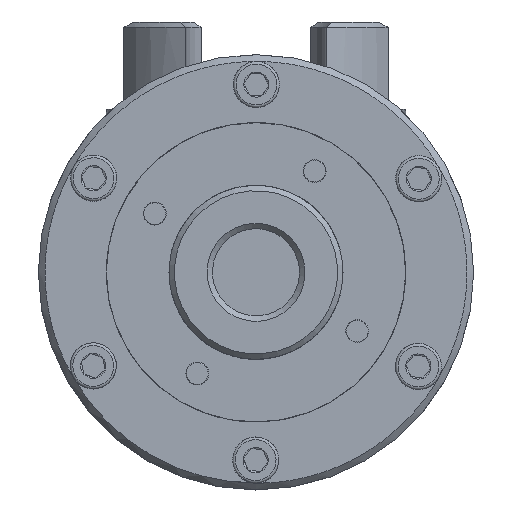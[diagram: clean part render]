
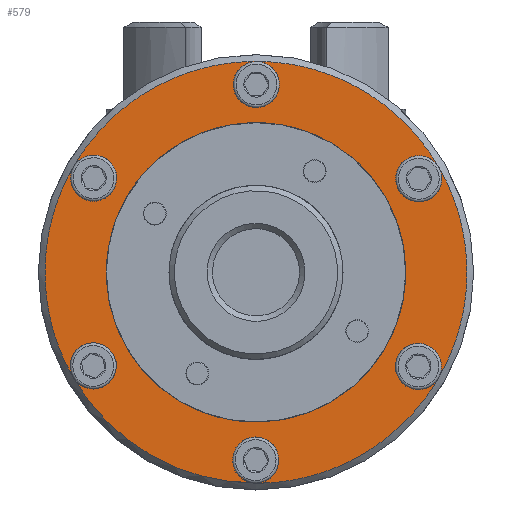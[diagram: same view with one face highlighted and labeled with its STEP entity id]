
A CAD part, left-side view. The second image highlights one B-rep face of the part: STEP entity #579.
In plain terms, the highlighted planar face has unit normal (-1, 0, 0).
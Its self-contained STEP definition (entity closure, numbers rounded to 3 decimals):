
#579 = ADVANCED_FACE( '', ( #1197, #1198 ), #1199, .F. );
#1197 = FACE_OUTER_BOUND( '', #2186, .T. );
#1198 = FACE_BOUND( '', #2187, .T. );
#1199 = PLANE( '', #2188 );
#2186 = EDGE_LOOP( '', ( #3488, #3489, #3490, #3491, #3492, #3493, #3494, #3495, #3496, #3497, #3498, #3499 ) );
#2187 = EDGE_LOOP( '', ( #3500 ) );
#2188 = AXIS2_PLACEMENT_3D( '', #3501, #3502, #3503 );
#3488 = ORIENTED_EDGE( '', *, *, #5673, .T. );
#3489 = ORIENTED_EDGE( '', *, *, #5666, .T. );
#3490 = ORIENTED_EDGE( '', *, *, #5674, .T. );
#3491 = ORIENTED_EDGE( '', *, *, #5665, .T. );
#3492 = ORIENTED_EDGE( '', *, *, #5671, .T. );
#3493 = ORIENTED_EDGE( '', *, *, #5670, .T. );
#3494 = ORIENTED_EDGE( '', *, *, #5675, .T. );
#3495 = ORIENTED_EDGE( '', *, *, #5669, .T. );
#3496 = ORIENTED_EDGE( '', *, *, #5676, .T. );
#3497 = ORIENTED_EDGE( '', *, *, #5668, .T. );
#3498 = ORIENTED_EDGE( '', *, *, #5677, .T. );
#3499 = ORIENTED_EDGE( '', *, *, #5667, .T. );
#3500 = ORIENTED_EDGE( '', *, *, #5678, .F. );
#3501 = CARTESIAN_POINT( '', ( -13.499, 40., 0. ) );
#3502 = DIRECTION( '', ( 1., 0., 0. ) );
#3503 = DIRECTION( '', ( 0., 1., 0. ) );
#5665 = EDGE_CURVE( '', #6525, #6526, #6527, .F. );
#5666 = EDGE_CURVE( '', #6528, #6525, #6529, .F. );
#5667 = EDGE_CURVE( '', #6530, #6528, #6531, .F. );
#5668 = EDGE_CURVE( '', #6532, #6530, #6533, .F. );
#5669 = EDGE_CURVE( '', #6534, #6532, #6535, .F. );
#5670 = EDGE_CURVE( '', #6526, #6534, #6536, .F. );
#5671 = EDGE_CURVE( '', #6526, #6526, #6537, .T. );
#5673 = EDGE_CURVE( '', #6528, #6528, #6540, .T. );
#5674 = EDGE_CURVE( '', #6525, #6525, #6541, .T. );
#5675 = EDGE_CURVE( '', #6534, #6534, #6542, .T. );
#5676 = EDGE_CURVE( '', #6532, #6532, #6543, .T. );
#5677 = EDGE_CURVE( '', #6530, #6530, #6544, .T. );
#5678 = EDGE_CURVE( '', #6545, #6545, #6546, .F. );
#6525 = VERTEX_POINT( '', #8087 );
#6526 = VERTEX_POINT( '', #8088 );
#6527 = CIRCLE( '', #8089, 38.75 );
#6528 = VERTEX_POINT( '', #8090 );
#6529 = CIRCLE( '', #8091, 38.75 );
#6530 = VERTEX_POINT( '', #8092 );
#6531 = CIRCLE( '', #8093, 38.75 );
#6532 = VERTEX_POINT( '', #8094 );
#6533 = CIRCLE( '', #8095, 38.75 );
#6534 = VERTEX_POINT( '', #8096 );
#6535 = CIRCLE( '', #8097, 38.75 );
#6536 = CIRCLE( '', #8098, 38.75 );
#6537 = CIRCLE( '', #8099, 4.25 );
#6540 = CIRCLE( '', #8102, 4.25 );
#6541 = CIRCLE( '', #8103, 4.25 );
#6542 = CIRCLE( '', #8104, 4.25 );
#6543 = CIRCLE( '', #8105, 4.25 );
#6544 = CIRCLE( '', #8106, 4.25 );
#6545 = VERTEX_POINT( '', #8107 );
#6546 = CIRCLE( '', #8108, 27.5 );
#8087 = CARTESIAN_POINT( '', ( -13.499, 33.558, 19.375 ) );
#8088 = CARTESIAN_POINT( '', ( -13.499, 33.558, -19.375 ) );
#8089 = AXIS2_PLACEMENT_3D( '', #10000, #10001, #10002 );
#8090 = CARTESIAN_POINT( '', ( -13.499, 0., 38.75 ) );
#8091 = AXIS2_PLACEMENT_3D( '', #10003, #10004, #10005 );
#8092 = CARTESIAN_POINT( '', ( -13.499, -33.558, 19.375 ) );
#8093 = AXIS2_PLACEMENT_3D( '', #10006, #10007, #10008 );
#8094 = CARTESIAN_POINT( '', ( -13.499, -33.558, -19.375 ) );
#8095 = AXIS2_PLACEMENT_3D( '', #10009, #10010, #10011 );
#8096 = CARTESIAN_POINT( '', ( -13.499, 0., -38.75 ) );
#8097 = AXIS2_PLACEMENT_3D( '', #10012, #10013, #10014 );
#8098 = AXIS2_PLACEMENT_3D( '', #10015, #10016, #10017 );
#8099 = AXIS2_PLACEMENT_3D( '', #10018, #10019, #10020 );
#8102 = AXIS2_PLACEMENT_3D( '', #10024, #10025, #10026 );
#8103 = AXIS2_PLACEMENT_3D( '', #10027, #10028, #10029 );
#8104 = AXIS2_PLACEMENT_3D( '', #10030, #10031, #10032 );
#8105 = AXIS2_PLACEMENT_3D( '', #10033, #10034, #10035 );
#8106 = AXIS2_PLACEMENT_3D( '', #10036, #10037, #10038 );
#8107 = CARTESIAN_POINT( '', ( -13.499, 0., -27.5 ) );
#8108 = AXIS2_PLACEMENT_3D( '', #10039, #10040, #10041 );
#10000 = CARTESIAN_POINT( '', ( -13.499, 0., 0. ) );
#10001 = DIRECTION( '', ( 1., 0., 0. ) );
#10002 = DIRECTION( '', ( 0., 0., -1. ) );
#10003 = CARTESIAN_POINT( '', ( -13.499, 0., 0. ) );
#10004 = DIRECTION( '', ( 1., 0., 0. ) );
#10005 = DIRECTION( '', ( 0., 0., -1. ) );
#10006 = CARTESIAN_POINT( '', ( -13.499, 0., 0. ) );
#10007 = DIRECTION( '', ( 1., 0., 0. ) );
#10008 = DIRECTION( '', ( 0., 0., -1. ) );
#10009 = CARTESIAN_POINT( '', ( -13.499, 0., 0. ) );
#10010 = DIRECTION( '', ( 1., 0., 0. ) );
#10011 = DIRECTION( '', ( 0., 0., -1. ) );
#10012 = CARTESIAN_POINT( '', ( -13.499, 0., 0. ) );
#10013 = DIRECTION( '', ( 1., 0., 0. ) );
#10014 = DIRECTION( '', ( 0., 0., -1. ) );
#10015 = CARTESIAN_POINT( '', ( -13.499, 0., 0. ) );
#10016 = DIRECTION( '', ( 1., 0., 0. ) );
#10017 = DIRECTION( '', ( 0., 0., -1. ) );
#10018 = CARTESIAN_POINT( '', ( -13.499, 29.878, -17.25 ) );
#10019 = DIRECTION( '', ( 1., 0., 0. ) );
#10020 = DIRECTION( '', ( 0., 0., -1. ) );
#10024 = CARTESIAN_POINT( '', ( -13.499, 0., 34.5 ) );
#10025 = DIRECTION( '', ( 1., 0., 0. ) );
#10026 = DIRECTION( '', ( 0., 0., -1. ) );
#10027 = CARTESIAN_POINT( '', ( -13.499, 29.878, 17.25 ) );
#10028 = DIRECTION( '', ( 1., 0., 0. ) );
#10029 = DIRECTION( '', ( 0., 0., -1. ) );
#10030 = CARTESIAN_POINT( '', ( -13.499, 0., -34.5 ) );
#10031 = DIRECTION( '', ( 1., 0., 0. ) );
#10032 = DIRECTION( '', ( 0., 0., -1. ) );
#10033 = CARTESIAN_POINT( '', ( -13.499, -29.878, -17.25 ) );
#10034 = DIRECTION( '', ( 1., 0., 0. ) );
#10035 = DIRECTION( '', ( 0., 0., -1. ) );
#10036 = CARTESIAN_POINT( '', ( -13.499, -29.878, 17.25 ) );
#10037 = DIRECTION( '', ( 1., 0., 0. ) );
#10038 = DIRECTION( '', ( 0., 0., -1. ) );
#10039 = CARTESIAN_POINT( '', ( -13.499, 0., 0. ) );
#10040 = DIRECTION( '', ( 1., 0., 0. ) );
#10041 = DIRECTION( '', ( 0., 0., -1. ) );
